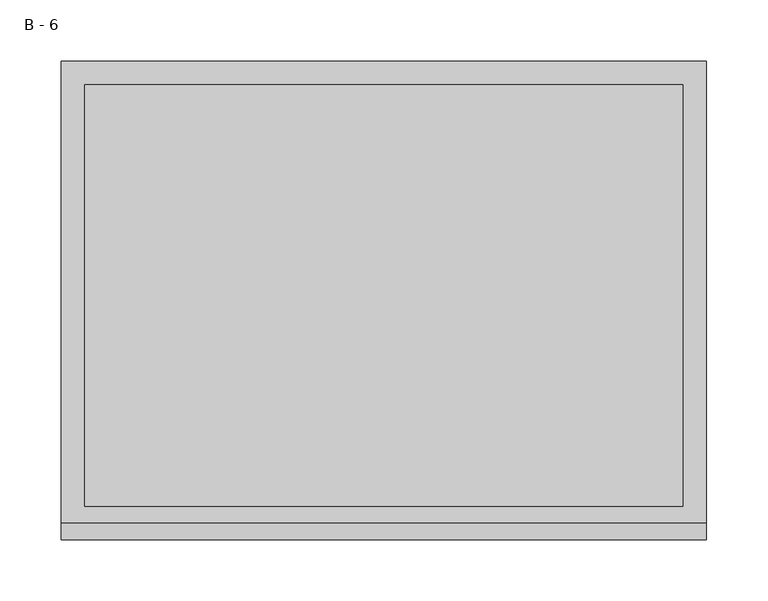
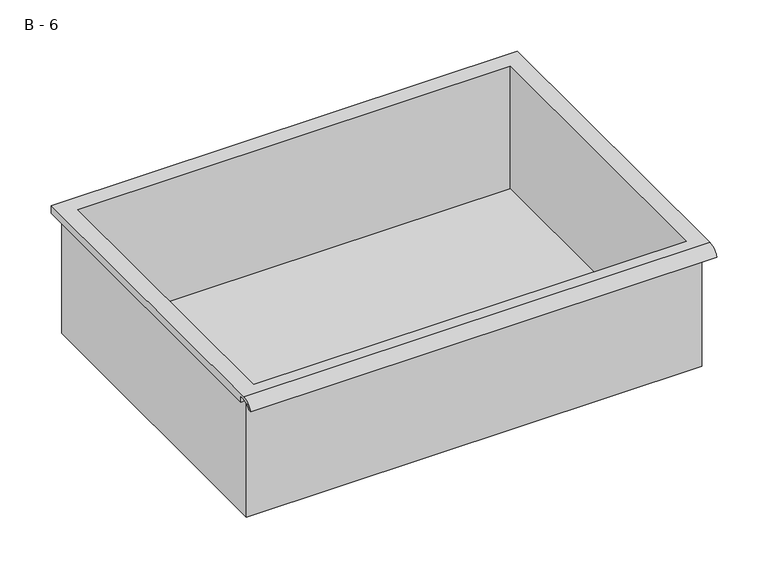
"""IFC4 building model written with IfcOpenShell, lengths in millimetres: furniture geometry, HermanMiller_CoStruc_CO207_Drawer : B - 6."""

from ifc_helpers import new_model, si_unit, frame, origin, place, context, project, spatial, polyline, circle_curve, source, transform, mapped, element, save
from ifc_brep_helpers import plane_surface, cylinder_surface, revolved_surface, advanced_brep


def b_6_ee692ebc(model_context):
    return source(origin(), model_context, "Body", "AdvancedBrep", [
        advanced_brep(
        [(-257.1076517, -176.2125, 723.9), (257.2423483, -176.2125, 723.9), (257.2423483, -176.2125, 863.6), (263.5923483, -176.2125, 863.6), (263.5923483, -176.2125, 869.9071341), (-263.4576517, -176.2125, 869.9071341), (-263.4576517, -176.2125, 863.6), (-257.1076517, -176.2125, 863.6), (257.2423483, 185.7375, 723.9), (-257.1076517, 185.7375, 723.9), (-257.1076517, 185.7375, 863.6), (257.2423483, 185.7375, 863.6), (263.5923483, -181.6070544, 873.125), (263.5923483, 195.2625, 873.125), (-263.4576517, 195.2625, 873.125), (-263.4576517, -181.6070544, 873.125), (244.5423483, -168.275, 873.125), (-244.4076517, -168.275, 873.125), (-244.4076517, 176.2125, 873.125), (244.5423483, 176.2125, 873.125), (263.5923483, -195.2625, 863.6), (263.5923483, -191.8280601, 863.6), (263.5923483, -180.4714815, 869.9071341), (263.5923483, 195.2625, 863.6), (-263.4576517, 195.2625, 863.6), (-263.4576517, -180.4714815, 869.9071341), (-263.4576517, -191.8280601, 863.6), (-263.4576517, -195.2625, 863.6), (-244.4076517, -168.275, 726.9261719), (244.5423483, -168.275, 726.9261719), (244.5423483, 176.2125, 726.9261719), (-244.4076517, 176.2125, 726.9261719)],
        [
            (0, 1),
            (1, 2),
            (2, 3),
            (3, 4),
            (4, 5),
            (5, 6),
            (6, 7),
            (7, 0),
            (8, 9),
            (9, 10),
            (10, 11),
            (11, 8),
            (0, 9),
            (8, 1),
            (11, 2),
            (12, 13),
            (13, 14),
            (14, 15),
            (15, 12),
            (16, 17),
            (17, 18),
            (18, 19),
            (19, 16),
            (7, 10),
            (12, 20, circle_curve(frame((263.5923483, -181.6070544, 858.5739859), z_axis=(1.0, 0.0, 0.0), x_axis=(0.0, 1.0, 0.0)), 14.5510141)),
            (20, 21),
            (21, 22, circle_curve(frame((263.5923483, -181.6070544, 858.5739859), z_axis=(-1.0, 0.0, 0.0), x_axis=(0.0, 1.0, 0.0)), 11.3898979)),
            (22, 4),
            (3, 23),
            (23, 13),
            (14, 24),
            (24, 6),
            (5, 25),
            (25, 26, circle_curve(frame((-263.4576517, -181.6070544, 858.5739859), z_axis=(1.0, 0.0, 0.0), x_axis=(0.0, 1.0, 0.0)), 11.3898979)),
            (26, 27),
            (27, 15, circle_curve(frame((-263.4576517, -181.6070544, 858.5739859), z_axis=(-1.0, 0.0, 0.0), x_axis=(0.0, 1.0, 0.0)), 14.5510141)),
            (27, 20),
            (26, 21),
            (25, 22),
            (24, 23),
            (28, 29),
            (29, 30),
            (30, 31),
            (31, 28),
            (28, 17),
            (16, 29),
            (19, 30),
            (18, 31),
        ],
        [
            plane_surface(frame((257.2423483, -176.2125, 723.9), z_axis=(0.0, -1.0, 0.0), x_axis=(1.0, 0.0, 0.0))),
            plane_surface(frame((257.2423483, 185.7375, 723.9), z_axis=(0.0, 1.0, 0.0), x_axis=(-1.0, 0.0, 0.0))),
            plane_surface(frame((-257.1076517, -176.2125, 723.9), z_axis=(0.0, 0.0, -1.0), x_axis=(0.0, 1.0, 0.0))),
            plane_surface(frame((257.2423483, -176.2125, 723.9), z_axis=(1.0, 0.0, 0.0), x_axis=(0.0, 1.0, 0.0))),
            plane_surface(frame((257.2423483, -176.2125, 873.125), z_axis=(0.0, 0.0, 1.0), x_axis=(0.0, 1.0, 0.0))),
            plane_surface(frame((-257.1076517, -176.2125, 873.125), z_axis=(-1.0, 0.0, 0.0), x_axis=(0.0, 1.0, 0.0))),
            plane_surface(frame((263.5923483, 195.2625, 873.125), z_axis=(1.0, 0.0, 0.0), x_axis=(0.0, -1.0, 0.0))),
            plane_surface(frame((-263.4576517, 195.2625, 873.125), z_axis=(-1.0, 0.0, 0.0), x_axis=(0.0, 1.0, 0.0))),
            cylinder_surface(frame((-263.4576517, -181.6070544, 858.5739859), z_axis=(1.0, 0.0, 0.0), x_axis=(0.0, 1.0, 0.0)), 14.5510141),
            plane_surface(frame((263.5923483, -195.2625, 863.6), z_axis=(0.0, -7.133584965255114e-12, -1.0), x_axis=(-1.0, 0.0, 0.0))),
            revolved_surface(polyline([(-263.4576517, -170.21715650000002, 858.5739859), (263.59234829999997, -170.21715650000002, 858.5739859)]), (-263.4576517, -181.6070544, 858.5739859), (-1.0, 0.0, 0.0)),
            plane_surface(frame((263.5923483, -180.4714815, 869.9071341), z_axis=(0.0, -1.767071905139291e-11, -1.0), x_axis=(-1.0, 0.0, 0.0))),
            plane_surface(frame((263.5923483, -176.2125, 863.6), z_axis=(0.0, 0.0, -1.0), x_axis=(-1.0, 0.0, 0.0))),
            plane_surface(frame((263.5923483, 195.2625, 863.6), z_axis=(0.0, 1.0, 0.0), x_axis=(-1.0, 0.0, 0.0))),
            plane_surface(frame((244.5423483, -168.275, 726.9261719), z_axis=(0.0, 0.0, 1.0), x_axis=(-1.0, 0.0, 0.0))),
            plane_surface(frame((-244.4076517, -168.275, 873.125), z_axis=(0.0, 1.0, 0.0), x_axis=(0.0, 0.0, -1.0))),
            plane_surface(frame((244.5423483, -168.275, 873.125), z_axis=(-1.0, 0.0, 0.0), x_axis=(0.0, 0.0, -1.0))),
            plane_surface(frame((244.5423483, 176.2125, 873.125), z_axis=(0.0, -1.0, 0.0), x_axis=(0.0, 0.0, -1.0))),
            plane_surface(frame((-244.4076517, 176.2125, 873.125), z_axis=(1.0, 0.0, 0.0), x_axis=(0.0, 0.0, -1.0))),
        ],
        [
            (0, [[1, 2, 3, 4, 5, 6, 7, 8]]),
            (1, [[9, 10, 11, 12]]),
            (2, [[-1, 13, -9, 14]]),
            (3, [[-14, -12, 15, -2]]),
            (4, [[16, 17, 18, 19], [20, 21, 22, 23]]),
            (5, [[-13, -8, 24, -10]]),
            (6, [[-16, 25, 26, 27, 28, -4, 29, 30]]),
            (7, [[31, 32, -6, 33, 34, 35, 36, -18]]),
            (8, [[-25, -19, -36, 37]]),
            (9, [[-26, -37, -35, 38]]),
            (10, [[-27, -38, -34, 39]]),
            (11, [[-28, -39, -33, -5]]),
            (12, [[-29, -3, -15, -11, -24, -7, -32, 40]]),
            (13, [[-30, -40, -31, -17]]),
            (14, [[41, 42, 43, 44]]),
            (15, [[-41, 45, -20, 46]]),
            (16, [[-42, -46, -23, 47]]),
            (17, [[-43, -47, -22, 48]]),
            (18, [[-44, -48, -21, -45]]),
        ],
    ),
    ])


if __name__ == "__main__":
    model = new_model("IFC4")
    model_context = context("Model", 3, world=origin())
    ifc_project = project(units=[si_unit("LENGTHUNIT", "METRE", prefix="MILLI")], contexts=[model_context])
    site = spatial("IfcSite", under=ifc_project)
    building = spatial("IfcBuilding", under=site)
    placement = place(None, origin())
    b_6_shape = b_6_ee692ebc(model_context)
    element("IfcFurniture", 1, ObjectType="HermanMiller_CoStruc_CO207_Drawer : B - 6", at=placement, inside=building, context=model_context, shape_type="MappedRepresentation", body=[
        mapped(b_6_shape, transform((0.0, 0.0, 0.0), x_axis=(1.0, 0.0, 0.0), y_axis=(0.0, 1.0, 0.0), z_axis=(0.0, 0.0, 1.0))),
    ])
    save(model, "model.ifc")
